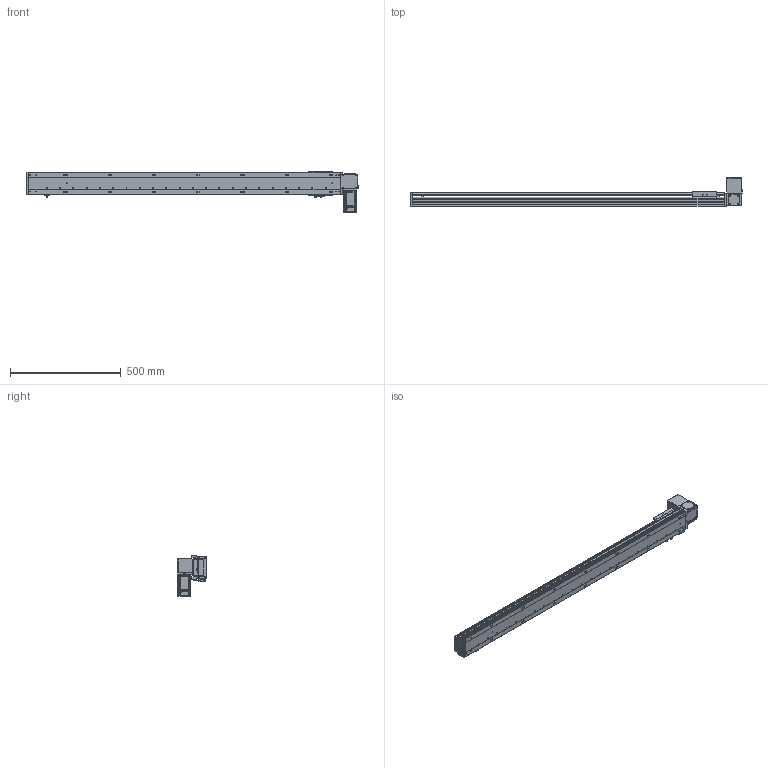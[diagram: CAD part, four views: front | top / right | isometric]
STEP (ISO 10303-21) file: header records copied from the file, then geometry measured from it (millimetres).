
FILE_DESCRIPTION (( 'STEP AP203' ), '1' );
FILE_NAME ('RY100-T-300-UL.SLDASM_1200.step', '2024-04-25T08:40:17', ( '盈信电脑' ), ( '东莞市道滘镇水果街19号' ), 'SwSTEP 2.0', 'SolidWorks 2016', '' );
FILE_SCHEMA (( 'CONFIG_CONTROL_DESIGN' ));
Length unit declared in the file: millimetre
Products named in the file (15): RY100-T翋肮祭謫裔啣; RY100-T粣創揤踡裔; 1; RY100-T-300-RK倰第菁釱_1200; RY80-T肮祭謫奻殏俋欶; RY100-T-300-RK倰第奻裔_1200; RY100俋离覜茼え; 滅袉蝶18-10; RY100-T左右折电机安装板; RY100-T肮祭謫臏賑輸; RY100-T肮祭謫翋盓傅釱; 覜茼ん672; RY100綴裔啣; RY100-T-300-UL.SLDASM_1200; RY100-T翋肮祭謫裔啣2
Assembly tree (17 placements, depth 2):
  RY100-T-300-UL.SLDASM_1200
    RY100-T-300-RK倰第菁釱_1200
    RY100-T-300-RK倰第奻裔_1200
    RY100-T肮祭謫臏賑輸
    RY100綴裔啣
    覜茼ん672  x3
    RY100俋离覜茼え
    RY100-T肮祭謫翋盓傅釱
    滅袉蝶18-10  x2
    RY100-T翋肮祭謫裔啣2
    RY100-T翋肮祭謫裔啣
    1
    RY100-T左右折电机安装板
    RY80-T肮祭謫奻殏俋欶
    RY100-T粣創揤踡裔
Bounding box: 1500 x 130.5 x 182.5 mm (x, y, z)
Volume: 2947756.2 mm3; surface area: 1222547.8 mm2
Topology: 17 solids, 17 shells, 2207 faces, 6133 edges, 3983 vertices
Faces by surface type: plane 1203, cylinder 795, cone 131, bspline 78
Entity records: 71001 total; most frequent: CARTESIAN_POINT 17047, ORIENTED_EDGE 11098, DIRECTION 10583, EDGE_CURVE 5549, VERTEX_POINT 3651, LINE 3595, VECTOR 3595, AXIS2_PLACEMENT_3D 3494
